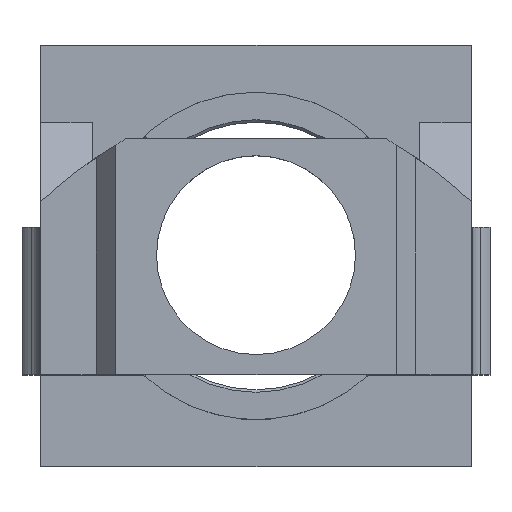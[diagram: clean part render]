
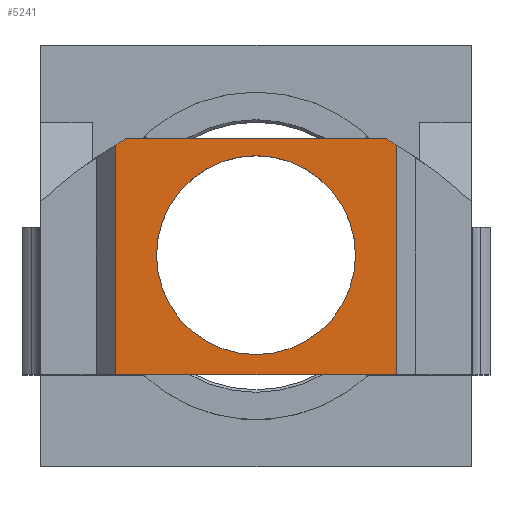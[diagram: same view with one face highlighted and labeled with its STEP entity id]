
A CAD part, top view. The second image highlights one B-rep face of the part: STEP entity #5241.
In plain terms, the highlighted planar face has unit normal (0, 0, 1).
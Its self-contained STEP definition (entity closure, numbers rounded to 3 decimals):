
#80 = AXIS2_PLACEMENT_3D ( 'NONE', #7787, #7823, #3699 ) ;
#151 = LINE ( 'NONE', #6860, #7270 ) ;
#338 = DIRECTION ( 'NONE',  ( 1., 0., 0. ) ) ;
#591 = CARTESIAN_POINT ( 'NONE',  ( -60., -51., 230. ) ) ;
#783 = CARTESIAN_POINT ( 'NONE',  ( -55., 50., 230. ) ) ;
#929 = CIRCLE ( 'NONE', #2879, 42.5 ) ;
#954 = LINE ( 'NONE', #5995, #8912 ) ;
#1037 = EDGE_CURVE ( 'NONE', #5897, #4704, #929, .T. ) ;
#1089 = CARTESIAN_POINT ( 'NONE',  ( 60., 47.053, 230. ) ) ;
#1517 = CARTESIAN_POINT ( 'NONE',  ( -44.035, -123.759, 230. ) ) ;
#1825 = LINE ( 'NONE', #5150, #8922 ) ;
#1873 = DIRECTION ( 'NONE',  ( -1., 0., 0. ) ) ;
#1951 = CARTESIAN_POINT ( 'NONE',  ( 55., 50., 230. ) ) ;
#2044 = EDGE_CURVE ( 'NONE', #8756, #2665, #5888, .T. ) ;
#2217 = DIRECTION ( 'NONE',  ( -1., 0., 0. ) ) ;
#2221 = CARTESIAN_POINT ( 'NONE',  ( 60., -51., 230. ) ) ;
#2442 = CARTESIAN_POINT ( 'NONE',  ( -60., 47.053, 230. ) ) ;
#2454 = ORIENTED_EDGE ( 'NONE', *, *, #1037, .F. ) ;
#2482 = CARTESIAN_POINT ( 'NONE',  ( 0., 0., 230. ) ) ;
#2516 = CARTESIAN_POINT ( 'NONE',  ( -42.5, 0., 230. ) ) ;
#2658 = CARTESIAN_POINT ( 'NONE',  ( 44.035, -123.759, 230. ) ) ;
#2665 = VERTEX_POINT ( 'NONE', #6042 ) ;
#2799 = FACE_OUTER_BOUND ( 'NONE', #5949, .T. ) ;
#2879 = AXIS2_PLACEMENT_3D ( 'NONE', #7457, #3338, #8147 ) ;
#3025 = EDGE_CURVE ( 'NONE', #3584, #5417, #151, .T. ) ;
#3029 = FACE_BOUND ( 'NONE', #4889, .T. ) ;
#3175 = DIRECTION ( 'NONE',  ( 1., 0., 0. ) ) ;
#3338 = DIRECTION ( 'NONE',  ( 0., 0., 1. ) ) ;
#3353 = DIRECTION ( 'NONE',  ( -1., 0., 0. ) ) ;
#3394 = ORIENTED_EDGE ( 'NONE', *, *, #8894, .T. ) ;
#3584 = VERTEX_POINT ( 'NONE', #2221 ) ;
#3699 = DIRECTION ( 'NONE',  ( -1., 0., 0. ) ) ;
#3983 = ORIENTED_EDGE ( 'NONE', *, *, #2044, .T. ) ;
#4090 = EDGE_CURVE ( 'NONE', #4648, #5417, #7896, .T. ) ;
#4410 = EDGE_CURVE ( 'NONE', #4704, #5897, #5752, .T. ) ;
#4648 = VERTEX_POINT ( 'NONE', #1951 ) ;
#4704 = VERTEX_POINT ( 'NONE', #8207 ) ;
#4752 = AXIS2_PLACEMENT_3D ( 'NONE', #2658, #7472, #3353 ) ;
#4889 = EDGE_LOOP ( 'NONE', ( #5746, #2454 ) ) ;
#5050 = PLANE ( 'NONE',  #80 ) ;
#5086 = EDGE_CURVE ( 'NONE', #2665, #3584, #1825, .T. ) ;
#5150 = CARTESIAN_POINT ( 'NONE',  ( -60., -51., 230. ) ) ;
#5241 = ADVANCED_FACE ( 'NONE', ( #3029, #2799 ), #5050, .F. ) ;
#5417 = VERTEX_POINT ( 'NONE', #1089 ) ;
#5517 = DIRECTION ( 'NONE',  ( 0., 1., 0. ) ) ;
#5746 = ORIENTED_EDGE ( 'NONE', *, *, #4410, .F. ) ;
#5752 = CIRCLE ( 'NONE', #8553, 42.5 ) ;
#5888 = LINE ( 'NONE', #591, #7486 ) ;
#5897 = VERTEX_POINT ( 'NONE', #2516 ) ;
#5949 = EDGE_LOOP ( 'NONE', ( #6384, #6965, #3394, #6891, #3983, #8114 ) ) ;
#5995 = CARTESIAN_POINT ( 'NONE',  ( -60., 50., 230. ) ) ;
#6042 = CARTESIAN_POINT ( 'NONE',  ( -60., -51., 230. ) ) ;
#6335 = DIRECTION ( 'NONE',  ( 0., 0., -1. ) ) ;
#6384 = ORIENTED_EDGE ( 'NONE', *, *, #3025, .T. ) ;
#6860 = CARTESIAN_POINT ( 'NONE',  ( 60., -51., 230. ) ) ;
#6891 = ORIENTED_EDGE ( 'NONE', *, *, #7931, .T. ) ;
#6965 = ORIENTED_EDGE ( 'NONE', *, *, #4090, .F. ) ;
#7270 = VECTOR ( 'NONE', #5517, 1000. ) ;
#7292 = DIRECTION ( 'NONE',  ( 0., 0., 1. ) ) ;
#7457 = CARTESIAN_POINT ( 'NONE',  ( 0., 0., 230. ) ) ;
#7472 = DIRECTION ( 'NONE',  ( 0., 0., 1. ) ) ;
#7486 = VECTOR ( 'NONE', #8173, 1000. ) ;
#7494 = VERTEX_POINT ( 'NONE', #783 ) ;
#7752 = CIRCLE ( 'NONE', #4752, 200. ) ;
#7787 = CARTESIAN_POINT ( 'NONE',  ( 60., 50., 230. ) ) ;
#7823 = DIRECTION ( 'NONE',  ( 0., 0., -1. ) ) ;
#7896 = CIRCLE ( 'NONE', #8252, 200. ) ;
#7931 = EDGE_CURVE ( 'NONE', #7494, #8756, #7752, .T. ) ;
#8114 = ORIENTED_EDGE ( 'NONE', *, *, #5086, .T. ) ;
#8147 = DIRECTION ( 'NONE',  ( 1., 0., 0. ) ) ;
#8173 = DIRECTION ( 'NONE',  ( 0., -1., 0. ) ) ;
#8207 = CARTESIAN_POINT ( 'NONE',  ( 42.5, 0., 230. ) ) ;
#8252 = AXIS2_PLACEMENT_3D ( 'NONE', #1517, #6335, #2217 ) ;
#8553 = AXIS2_PLACEMENT_3D ( 'NONE', #2482, #7292, #3175 ) ;
#8756 = VERTEX_POINT ( 'NONE', #2442 ) ;
#8894 = EDGE_CURVE ( 'NONE', #4648, #7494, #954, .T. ) ;
#8912 = VECTOR ( 'NONE', #1873, 1000. ) ;
#8922 = VECTOR ( 'NONE', #338, 1000. ) ;
